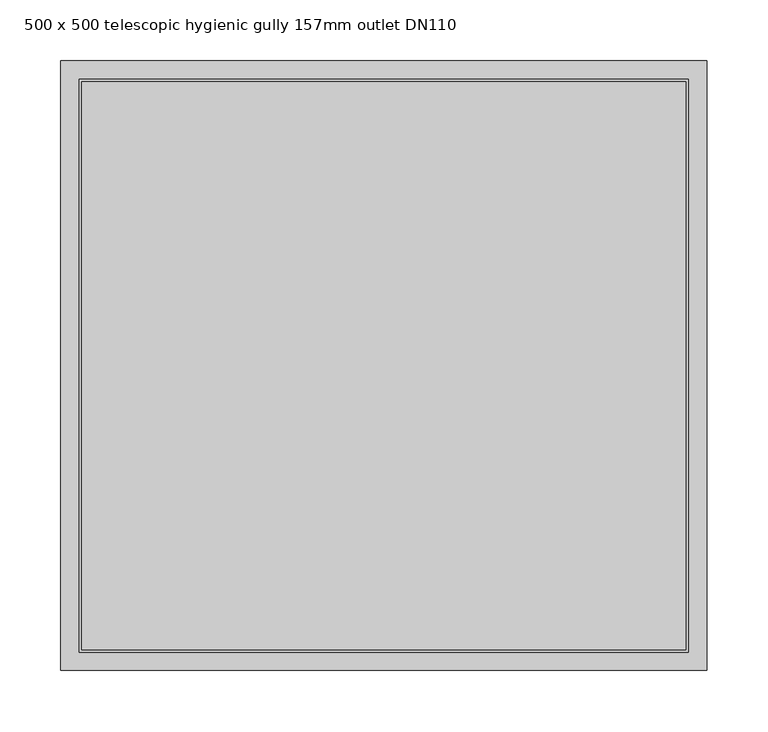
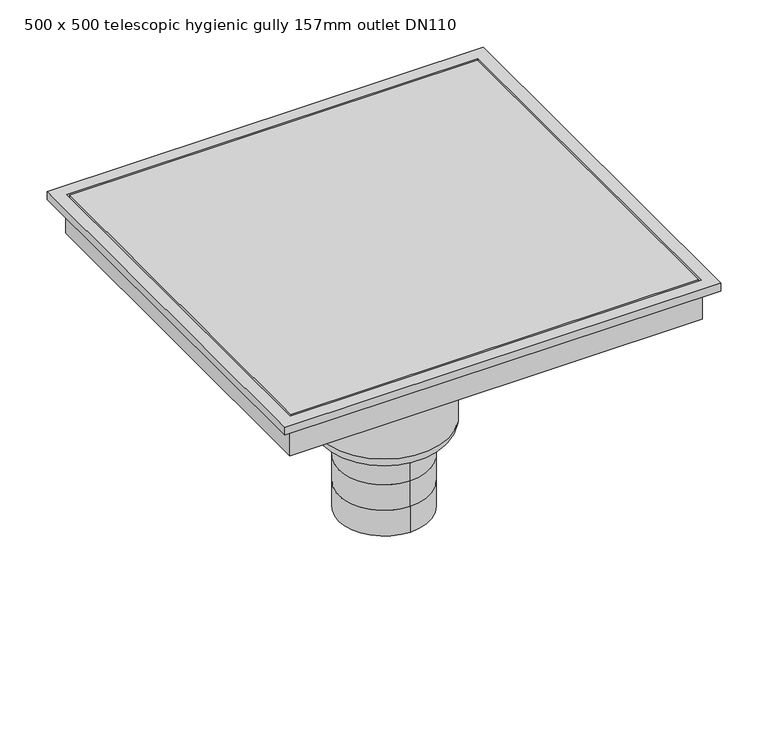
"""IFC4 building model written with IfcOpenShell, lengths in millimetres: sanitary terminal geometry, PF_ST_UN_Siphon telescopics eskis hygiene first_ACO : 500 x 500 telescopic hygienic gully 157mm outlet DN110."""

from ifc_helpers import new_model, si_unit, point, frame, origin, origin_2d, place, context, project, spatial, polyline, circle_curve, ellipse_curve, trimmed, segment, composite_curve, outline, extrude, faceted_brep, source, transform, mapped, element, save
from ifc_brep_helpers import plane_surface, cylinder_surface, revolved_surface, advanced_brep


def sanitary_terminal_500_x_500_telescopic_hygienic_gully_157mm_c58706e5(model_context):
    return source(origin(), model_context, "Body", "SolidModel", [
        extrude(outline(composite_curve([segment(trimmed(circle_curve(origin_2d(), 71.5), [point((-71.5, 0.0))], [point((71.5, 0.0))], False, "CARTESIAN"), True, "CONTINUOUS"), segment(trimmed(circle_curve(origin_2d(), 71.5), [point((71.5, 0.0))], [point((-71.5, 0.0))], False, "CARTESIAN"), True, "CONTINUOUS")], self_intersect=False)), frame((0.0, 0.0, -240.0), z_axis=(0.0, 0.0, 1.0), x_axis=(1.0, 0.0, 0.0)), (0.0, 0.0, 1.0), 70.0),
        faceted_brep([(265.0, 250.0, -130.0), (265.0, 250.0, -120.0), (265.0, -250.0, -120.0), (265.0, -250.0, -130.0), (251.0, 236.0, -170.0), (251.0, 236.0, -130.0), (251.0, -236.0, -130.0), (251.0, -236.0, -170.0), (250.0, -235.0, -120.0), (250.0, 235.0, -120.0), (250.0, 235.0, -160.0), (250.0, -235.0, -160.0), (-265.0, -250.0, -120.0), (-265.0, -250.0, -130.0), (-251.0, -236.0, -130.0), (-251.0, -236.0, -170.0), (-250.0, -235.0, -120.0), (-250.0, -235.0, -160.0), (-265.0, 250.0, -120.0), (-265.0, 250.0, -130.0), (-251.0, 236.0, -130.0), (-251.0, 236.0, -170.0), (-250.0, 235.0, -120.0), (-250.0, 235.0, -160.0)], [[[0, 1, 2, 3]], [[4, 5, 6, 7]], [[8, 9, 10, 11]], [[3, 2, 12, 13]], [[7, 6, 14, 15]], [[16, 8, 11, 17]], [[13, 12, 18, 19]], [[15, 14, 20, 21]], [[22, 16, 17, 23]], [[2, 1, 18, 12], [9, 8, 16, 22]], [[1, 0, 19, 18]], [[0, 3, 13, 19], [6, 5, 20, 14]], [[5, 4, 21, 20]], [[4, 7, 15, 21]], [[9, 22, 23, 10]], [[11, 10, 23, 17]]]),
        extrude(outline(polyline([(248.0, 233.0), (248.0, -233.0), (-248.0, -233.0), (-248.0, 233.0), (248.0, 233.0)])), frame((0.0, 0.0, -160.0), z_axis=(0.0, 0.0, 1.0), x_axis=(1.0, 0.0, 0.0)), (0.0, 0.0, 1.0), 40.0),
        advanced_brep(
        [(0.0, -55.0, -466.0), (0.0, 55.0, -466.0), (0.0, -55.0, -433.0), (0.0, 55.0, -433.0), (0.0, -55.0, -400.0), (0.0, 55.0, -400.0), (0.0, 55.0, -367.0), (55.0, 0.0, -367.0), (0.0, -55.0, -367.0), (-55.0, 0.0, -367.0), (78.5, 0.0, -350.5), (-78.5, 0.0, -350.5), (-78.5, 0.0, -198.0), (78.5, 0.0, -198.0), (62.0, 0.0, -367.0), (-62.0, 0.0, -367.0), (-179.0, 0.0, -198.0), (179.0, 0.0, -198.0), (-179.0, 0.0, -196.0), (179.0, 0.0, -196.0)],
        [
            (0, 1, circle_curve(frame((0.0, 0.0, -466.0), z_axis=(0.0, 0.0, -1.0), x_axis=(0.0, 1.0, 0.0)), 55.0)),
            (1, 0, circle_curve(frame((0.0, 0.0, -466.0), z_axis=(0.0, 0.0, -1.0), x_axis=(0.0, 1.0, 0.0)), 55.0)),
            (0, 2),
            (2, 3, circle_curve(frame((0.0, 0.0, -433.0), z_axis=(0.0, 0.0, -1.0), x_axis=(0.0, 1.0, 0.0)), 55.0)),
            (3, 1),
            (3, 2, circle_curve(frame((0.0, 0.0, -433.0), z_axis=(0.0, 0.0, -1.0), x_axis=(0.0, 1.0, 0.0)), 55.0)),
            (4, 2),
            (3, 5),
            (5, 4, circle_curve(frame((0.0, 0.0, -400.0), z_axis=(0.0, 0.0, -1.0), x_axis=(1.0, 0.0, 0.0)), 55.0)),
            (4, 5, circle_curve(frame((0.0, 0.0, -400.0), z_axis=(0.0, 0.0, -1.0), x_axis=(-1.0, 0.0, 0.0)), 55.0)),
            (5, 6),
            (6, 7, circle_curve(frame((0.0, 0.0, -367.0), z_axis=(0.0, 0.0, -1.0), x_axis=(0.0, 1.0, 0.0)), 55.0)),
            (7, 8, circle_curve(frame((0.0, 0.0, -367.0), z_axis=(0.0, 0.0, -1.0), x_axis=(0.0, 1.0, 0.0)), 55.0)),
            (8, 4),
            (8, 9, circle_curve(frame((0.0, 0.0, -367.0), z_axis=(0.0, 0.0, -1.0), x_axis=(0.0, 1.0, 0.0)), 55.0)),
            (9, 6, circle_curve(frame((0.0, 0.0, -367.0), z_axis=(0.0, 0.0, -1.0), x_axis=(0.0, 1.0, 0.0)), 55.0)),
            (10, 11, circle_curve(frame((0.0, 0.0, -350.5), z_axis=(0.0, 0.0, 1.0), x_axis=(-1.0, 0.0, 0.0)), 78.5)),
            (11, 12),
            (12, 13, circle_curve(frame((0.0, 0.0, -198.0), z_axis=(0.0, 0.0, -1.0), x_axis=(-1.0, 0.0, 0.0)), 78.5)),
            (13, 10),
            (11, 10, circle_curve(frame((0.0, 0.0, -350.5), z_axis=(0.0, 0.0, 1.0), x_axis=(-1.0, 0.0, 0.0)), 78.5)),
            (13, 12, circle_curve(frame((0.0, 0.0, -198.0), z_axis=(0.0, 0.0, -1.0), x_axis=(-1.0, 0.0, 0.0)), 78.5)),
            (10, 14, circle_curve(frame((62.0, 0.0, -350.5), z_axis=(0.0, 1.0, 0.0), x_axis=(-1.0, 0.0, 0.0)), 16.5)),
            (14, 15, circle_curve(frame((0.0, 0.0, -367.0), z_axis=(0.0, 0.0, 1.0), x_axis=(-1.0, 0.0, 0.0)), 62.0)),
            (15, 11, circle_curve(frame((-62.0, 0.0, -350.5), z_axis=(0.0, 1.0, 0.0), x_axis=(1.0, 0.0, 0.0)), 16.5)),
            (15, 14, circle_curve(frame((0.0, 0.0, -367.0), z_axis=(0.0, 0.0, 1.0), x_axis=(-1.0, 0.0, 0.0)), 62.0)),
            (14, 7),
            (9, 15),
            (16, 17, circle_curve(frame((0.0, 0.0, -198.0), z_axis=(0.0, 0.0, -1.0), x_axis=(1.0, 0.0, 0.0)), 179.0)),
            (17, 16, circle_curve(frame((0.0, 0.0, -198.0), z_axis=(0.0, 0.0, -1.0), x_axis=(1.0, 0.0, 0.0)), 179.0)),
            (18, 19, circle_curve(frame((0.0, 0.0, -196.0), z_axis=(0.0, 0.0, 1.0), x_axis=(1.0, 0.0, 0.0)), 179.0)),
            (19, 18, circle_curve(frame((0.0, 0.0, -196.0), z_axis=(0.0, 0.0, 1.0), x_axis=(1.0, 0.0, 0.0)), 179.0)),
            (17, 19),
            (18, 16),
        ],
        [
            plane_surface(frame((0.0, 55.0, -466.0), z_axis=(0.0, 0.0, -1.0), x_axis=(1.0, 0.0, 0.0))),
            cylinder_surface(frame((0.0, 0.0, -433.0), z_axis=(0.0, 0.0, -1.0), x_axis=(0.0, 1.0, 0.0)), 55.0),
            cylinder_surface(frame((0.0, 0.0, -400.0), z_axis=(0.0, 0.0, -1.0), x_axis=(1.0, 0.0, 0.0)), 55.0),
            cylinder_surface(frame((0.0, 0.0, -400.0), z_axis=(0.0, 0.0, -1.0), x_axis=(-1.0, 0.0, 0.0)), 55.0),
            cylinder_surface(frame((0.0, 0.0, -367.0), z_axis=(0.0, 0.0, -1.0), x_axis=(0.0, 1.0, 0.0)), 55.0),
            cylinder_surface(frame((0.0, 0.0, -136.0), z_axis=(0.0, 0.0, -1.0), x_axis=(-1.0, 0.0, 0.0)), 78.5),
            revolved_surface(trimmed(ellipse_curve(frame((-62.0, 0.0, -350.5), z_axis=(0.0, -1.0, 0.0), x_axis=(1.0, 0.0, 0.0)), 16.5, 16.5), [point((-78.5, 0.0, -350.5))], [point((-62.0, 0.0, -367.0))], True, "CARTESIAN"), (0.0, 0.0, -136.0), (0.0, 0.0, -1.0)),
            plane_surface(frame((0.0, 0.0, -367.0), z_axis=(0.0, 0.0, -1.0), x_axis=(-1.0, 0.0, 0.0))),
            plane_surface(frame((179.0, 0.0, -198.0), z_axis=(0.0, 0.0, -1.0), x_axis=(0.0, -1.0, 0.0))),
            plane_surface(frame((179.0, 0.0, -196.0), z_axis=(0.0, 0.0, 1.0), x_axis=(0.0, 1.0, 0.0))),
            cylinder_surface(frame((0.0, 0.0, -198.0), z_axis=(0.0, 0.0, 1.0), x_axis=(1.0, 0.0, 0.0)), 179.0),
        ],
        [
            (0, [[1, 2]]),
            (1, [[-1, 3, 4, 5]]),
            (1, [[-2, -5, 6, -3]]),
            (2, [[7, -6, 8, 9]]),
            (3, [[-7, 10, -8, -4]]),
            (4, [[11, 12, 13, 14, -9]]),
            (4, [[-11, -10, -14, 15, 16]]),
            (5, [[17, 18, 19, 20]]),
            (5, [[-18, 21, -20, 22]]),
            (6, [[-17, 23, 24, 25]]),
            (6, [[-21, -25, 26, -23]]),
            (7, [[-24, 27, -12, -16, 28]]),
            (7, [[-26, -28, -15, -13, -27]]),
            (8, [[29, 30], [-19, -22]]),
            (9, [[31, 32]]),
            (10, [[-30, 33, -31, 34]]),
            (10, [[-29, -34, -32, -33]]),
        ],
    ),
    ])


if __name__ == "__main__":
    model = new_model("IFC4")
    model_context = context("Model", 3, world=origin())
    ifc_project = project(units=[si_unit("LENGTHUNIT", "METRE", prefix="MILLI")], contexts=[model_context])
    site = spatial("IfcSite", under=ifc_project)
    building = spatial("IfcBuilding", under=site)
    placement = place(None, origin())
    sanitary_terminal_500_x_500_telescopic_hygienic_gully_157mm_shape = sanitary_terminal_500_x_500_telescopic_hygienic_gully_157mm_c58706e5(model_context)
    element("IfcSanitaryTerminal", 1, ObjectType="PF_ST_UN_Siphon telescopics eskis hygiene first_ACO : 500 x 500 telescopic hygienic gully 157mm outlet DN110", at=placement, inside=building, context=model_context, shape_type="MappedRepresentation", body=[
        mapped(sanitary_terminal_500_x_500_telescopic_hygienic_gully_157mm_shape, transform((0.0, 0.0, 0.0), x_axis=(1.0, 0.0, 0.0), y_axis=(0.0, 1.0, 0.0), z_axis=(0.0, 0.0, 1.0))),
    ])
    save(model, "model.ifc")
